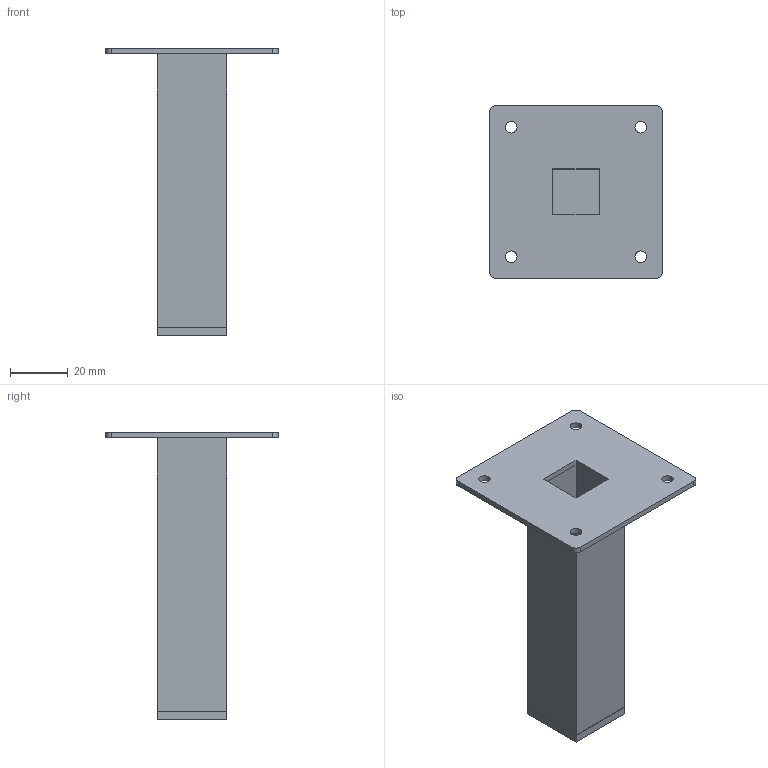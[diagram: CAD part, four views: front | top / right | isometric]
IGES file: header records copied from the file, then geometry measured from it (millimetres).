
Start section: Data from Parasolid IGES Translator 15.0.47, Copyright(c) 2006 Siemens P LM Software. All Rights Reserved.
Global section: file name: 16863.igs; native system:  By UGS Corp.; preprocessor: XPlus GENERIC/IGES 3.0; author: Noname; organization: Noname; date: 20140121.135905; units: millimetre
Bounding box: 60 x 60 x 100 mm (x, y, z)
Surface area: 26198.9 mm2 (no closed solid volume)
Topology: 0 solids, 0 shells, 39 faces, 192 edges, 184 vertices
Faces by surface type: extrusion 31, revolution 8
